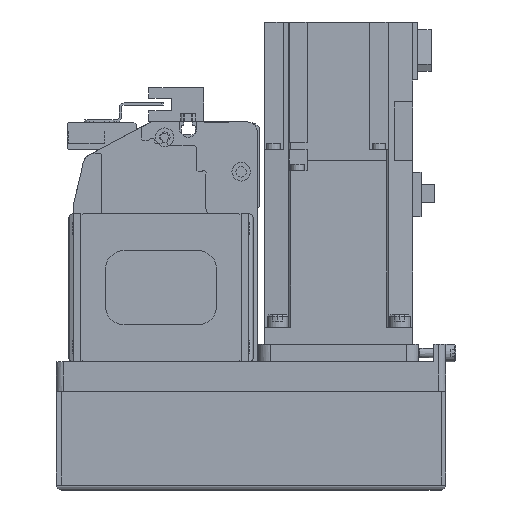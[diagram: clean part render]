
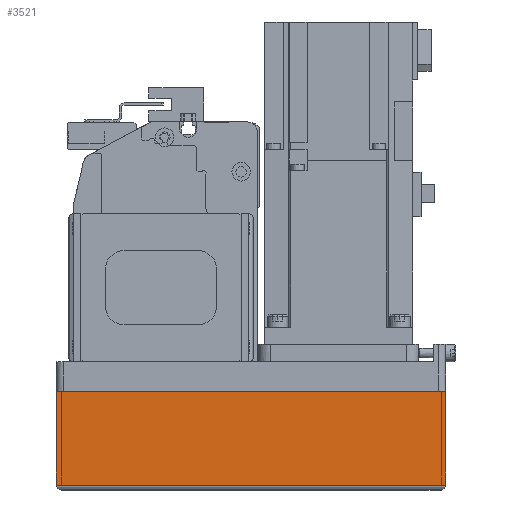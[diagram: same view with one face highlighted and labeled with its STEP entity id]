
A CAD part, left-side view. The second image highlights one B-rep face of the part: STEP entity #3521.
In plain terms, the highlighted planar face has unit normal (-1, 0, 0) as drawn and (0, 1, 0) by its records, which use the part's own axes.
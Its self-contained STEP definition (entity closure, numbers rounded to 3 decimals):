
#3521 = ADVANCED_FACE( '', ( #7360 ), #7361, .T. );
#7360 = FACE_OUTER_BOUND( '', #11163, .T. );
#7361 = PLANE( '', #11164 );
#11163 = EDGE_LOOP( '', ( #20964, #20965, #20966, #20967 ) );
#11164 = AXIS2_PLACEMENT_3D( '', #20968, #20969, #20970 );
#20964 = ORIENTED_EDGE( '', *, *, #22450, .F. );
#20965 = ORIENTED_EDGE( '', *, *, #24556, .F. );
#20966 = ORIENTED_EDGE( '', *, *, #23060, .T. );
#20967 = ORIENTED_EDGE( '', *, *, #22138, .T. );
#20968 = CARTESIAN_POINT( '', ( -158., 39., -50. ) );
#20969 = DIRECTION( '', ( 0., 1., 0. ) );
#20970 = DIRECTION( '', ( 0., 0., 1. ) );
#22138 = EDGE_CURVE( '', #26746, #26744, #26747, .T. );
#22450 = EDGE_CURVE( '', #27259, #26744, #27260, .T. );
#23060 = EDGE_CURVE( '', #28214, #26746, #28215, .T. );
#24556 = EDGE_CURVE( '', #28214, #27259, #30205, .T. );
#26744 = VERTEX_POINT( '', #33398 );
#26746 = VERTEX_POINT( '', #33401 );
#26747 = LINE( '', #33402, #33403 );
#27259 = VERTEX_POINT( '', #34182 );
#27260 = LINE( '', #34183, #34184 );
#28214 = VERTEX_POINT( '', #35631 );
#28215 = LINE( '', #35632, #35633 );
#30205 = LINE( '', #39192, #39193 );
#33398 = CARTESIAN_POINT( '', ( 0., 39., -12.1 ) );
#33401 = CARTESIAN_POINT( '', ( -158., 39., -12.1 ) );
#33402 = CARTESIAN_POINT( '', ( -158., 39., -12.1 ) );
#33403 = VECTOR( '', #40974, 1000. );
#34182 = CARTESIAN_POINT( '', ( 0., 39., -50. ) );
#34183 = CARTESIAN_POINT( '', ( 0., 39., -50. ) );
#34184 = VECTOR( '', #41394, 1000. );
#35631 = CARTESIAN_POINT( '', ( -158., 39., -50. ) );
#35632 = CARTESIAN_POINT( '', ( -158., 39., -50. ) );
#35633 = VECTOR( '', #42208, 1000. );
#39192 = CARTESIAN_POINT( '', ( -158., 39., -50. ) );
#39193 = VECTOR( '', #43746, 1000. );
#40974 = DIRECTION( '', ( 1., 0., 0. ) );
#41394 = DIRECTION( '', ( 0., 0., 1. ) );
#42208 = DIRECTION( '', ( 0., 0., 1. ) );
#43746 = DIRECTION( '', ( 1., 0., 0. ) );
